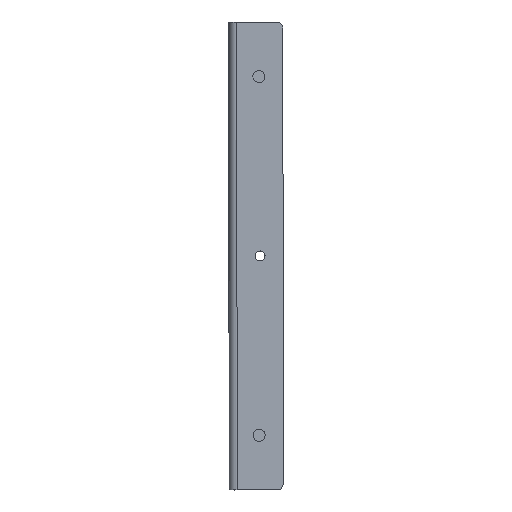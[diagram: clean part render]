
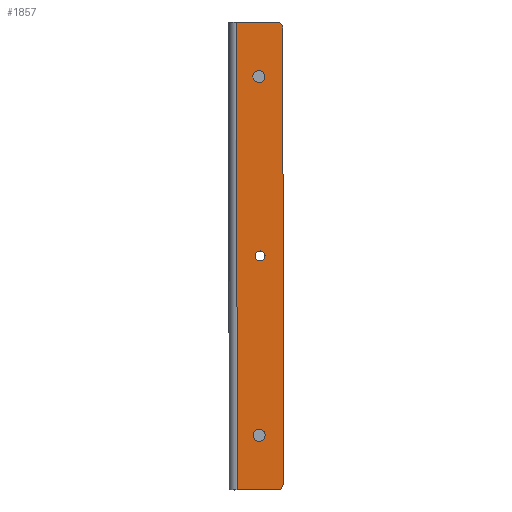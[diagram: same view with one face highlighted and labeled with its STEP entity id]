
A CAD part, top view. The second image highlights one B-rep face of the part: STEP entity #1857.
In plain terms, the highlighted planar face has unit normal (0, 0, 1).
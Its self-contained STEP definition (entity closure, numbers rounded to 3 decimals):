
#1309=VECTOR('Line Direction',#1308,1.) ;
#1403=VECTOR('Line Direction',#1402,1.) ;
#1687=VECTOR('Line Direction',#1686,1.) ;
#1713=VECTOR('Line Direction',#1712,1.) ;
#1308=DIRECTION('Vector Direction',(0.001,-1.,0.)) ;
#1361=DIRECTION('Axis2P3D Direction',(0.,0.,1.)) ;
#1380=DIRECTION('Axis2P3D Direction',(0.,0.,1.)) ;
#1402=DIRECTION('Vector Direction',(-1.,-0.001,0.)) ;
#1433=DIRECTION('Axis2P3D Direction',(0.,0.,-1.)) ;
#1686=DIRECTION('Vector Direction',(-1.,-0.001,0.)) ;
#1712=DIRECTION('Vector Direction',(-0.001,1.,0.)) ;
#1734=DIRECTION('Axis2P3D Direction',(0.,0.,-1.)) ;
#1805=DIRECTION('Axis2P3D Direction',(0.,0.,-1.)) ;
#1806=DIRECTION('Axis2P3D XDirection',(1.,0.001,0.)) ;
#1822=DIRECTION('Axis2P3D Direction',(0.,0.,-1.)) ;
#1831=DIRECTION('Axis2P3D Direction',(0.,0.,-1.)) ;
#1840=DIRECTION('Axis2P3D Direction',(0.,0.,-1.)) ;
#1849=DIRECTION('Axis2P3D Direction',(0.,0.,-1.)) ;
#1244=CARTESIAN_POINT('Vertex',(1055.722,-831.297,364.316)) ;
#1279=CARTESIAN_POINT('Vertex',(1055.541,-597.897,364.315)) ;
#1307=CARTESIAN_POINT('Line Origine',(1055.632,-714.597,364.316)) ;
#1357=CARTESIAN_POINT('Vertex',(1064.632,-714.59,364.315)) ;
#1360=CARTESIAN_POINT('Axis2P3D Location',(1067.132,-714.588,364.315)) ;
#1364=CARTESIAN_POINT('Vertex',(1069.632,-714.586,364.315)) ;
#1379=CARTESIAN_POINT('Axis2P3D Location',(1067.132,-714.588,364.315)) ;
#1401=CARTESIAN_POINT('Line Origine',(1067.222,-831.288,364.316)) ;
#1405=CARTESIAN_POINT('Vertex',(1075.722,-831.282,364.315)) ;
#1432=CARTESIAN_POINT('Axis2P3D Location',(1075.72,-828.282,364.315)) ;
#1436=CARTESIAN_POINT('Vertex',(1078.72,-828.279,364.315)) ;
#1677=CARTESIAN_POINT('Vertex',(1075.541,-597.882,364.315)) ;
#1685=CARTESIAN_POINT('Line Origine',(1067.041,-597.888,364.315)) ;
#1708=CARTESIAN_POINT('Vertex',(1078.543,-600.879,364.315)) ;
#1711=CARTESIAN_POINT('Line Origine',(1078.632,-714.579,364.315)) ;
#1733=CARTESIAN_POINT('Axis2P3D Location',(1075.543,-600.882,364.315)) ;
#1804=CARTESIAN_POINT('Axis2P3D Location',(1055.632,-714.597,364.316)) ;
#1821=CARTESIAN_POINT('Axis2P3D Location',(1066.701,-804.089,364.316)) ;
#1825=CARTESIAN_POINT('Vertex',(1066.931,-807.08,364.316)) ;
#1827=CARTESIAN_POINT('Vertex',(1066.471,-801.098,364.316)) ;
#1830=CARTESIAN_POINT('Axis2P3D Location',(1066.701,-804.089,364.316)) ;
#1839=CARTESIAN_POINT('Axis2P3D Location',(1066.562,-625.089,364.315)) ;
#1843=CARTESIAN_POINT('Vertex',(1066.792,-628.08,364.315)) ;
#1845=CARTESIAN_POINT('Vertex',(1066.332,-622.098,364.315)) ;
#1848=CARTESIAN_POINT('Axis2P3D Location',(1066.562,-625.089,364.315)) ;
#1362=AXIS2_PLACEMENT_3D('Circle Axis2P3D',#1360,#1361,$) ;
#1381=AXIS2_PLACEMENT_3D('Circle Axis2P3D',#1379,#1380,$) ;
#1434=AXIS2_PLACEMENT_3D('Circle Axis2P3D',#1432,#1433,$) ;
#1735=AXIS2_PLACEMENT_3D('Circle Axis2P3D',#1733,#1734,$) ;
#1807=AXIS2_PLACEMENT_3D('Plane Axis2P3D',#1804,#1805,#1806) ;
#1823=AXIS2_PLACEMENT_3D('Circle Axis2P3D',#1821,#1822,$) ;
#1832=AXIS2_PLACEMENT_3D('Circle Axis2P3D',#1830,#1831,$) ;
#1841=AXIS2_PLACEMENT_3D('Circle Axis2P3D',#1839,#1840,$) ;
#1850=AXIS2_PLACEMENT_3D('Circle Axis2P3D',#1848,#1849,$) ;
#1820=FACE_BOUND('',#1817,.T.) ;
#1838=FACE_BOUND('',#1835,.T.) ;
#1856=FACE_BOUND('',#1853,.T.) ;
#1311=EDGE_CURVE('',#1280,#1245,#1310,.T.) ;
#1366=EDGE_CURVE('',#1365,#1358,#1363,.F.) ;
#1383=EDGE_CURVE('',#1358,#1365,#1382,.F.) ;
#1407=EDGE_CURVE('',#1406,#1245,#1404,.T.) ;
#1438=EDGE_CURVE('',#1437,#1406,#1435,.T.) ;
#1689=EDGE_CURVE('',#1678,#1280,#1688,.T.) ;
#1715=EDGE_CURVE('',#1437,#1709,#1714,.T.) ;
#1737=EDGE_CURVE('',#1678,#1709,#1736,.T.) ;
#1829=EDGE_CURVE('',#1826,#1828,#1824,.F.) ;
#1834=EDGE_CURVE('',#1828,#1826,#1833,.F.) ;
#1847=EDGE_CURVE('',#1844,#1846,#1842,.F.) ;
#1852=EDGE_CURVE('',#1846,#1844,#1851,.F.) ;
#1808=PLANE('Plane',#1807) ;
#1810=ORIENTED_EDGE('',*,*,#1737,.F.) ;
#1811=ORIENTED_EDGE('',*,*,#1689,.T.) ;
#1812=ORIENTED_EDGE('',*,*,#1311,.T.) ;
#1813=ORIENTED_EDGE('',*,*,#1407,.F.) ;
#1814=ORIENTED_EDGE('',*,*,#1438,.F.) ;
#1815=ORIENTED_EDGE('',*,*,#1715,.T.) ;
#1818=ORIENTED_EDGE('',*,*,#1366,.T.) ;
#1819=ORIENTED_EDGE('',*,*,#1383,.T.) ;
#1836=ORIENTED_EDGE('',*,*,#1829,.F.) ;
#1837=ORIENTED_EDGE('',*,*,#1834,.F.) ;
#1854=ORIENTED_EDGE('',*,*,#1847,.F.) ;
#1855=ORIENTED_EDGE('',*,*,#1852,.F.) ;
#1310=LINE('Line',#1307,#1309) ;
#1404=LINE('Line',#1401,#1403) ;
#1688=LINE('Line',#1685,#1687) ;
#1714=LINE('Line',#1711,#1713) ;
#1857=ADVANCED_FACE('\X2\96F64EF651E04F554F53\X0\',(#1816,#1820,#1838,#1856),#1808,.F.) ;
#1363=CIRCLE('generated circle',#1362,2.5) ;
#1382=CIRCLE('generated circle',#1381,2.5) ;
#1435=CIRCLE('generated circle',#1434,3.) ;
#1736=CIRCLE('generated circle',#1735,3.) ;
#1824=CIRCLE('generated circle',#1823,3.) ;
#1833=CIRCLE('generated circle',#1832,3.) ;
#1842=CIRCLE('generated circle',#1841,3.) ;
#1851=CIRCLE('generated circle',#1850,3.) ;
#1245=VERTEX_POINT('',#1244) ;
#1280=VERTEX_POINT('',#1279) ;
#1358=VERTEX_POINT('',#1357) ;
#1365=VERTEX_POINT('',#1364) ;
#1406=VERTEX_POINT('',#1405) ;
#1437=VERTEX_POINT('',#1436) ;
#1678=VERTEX_POINT('',#1677) ;
#1709=VERTEX_POINT('',#1708) ;
#1826=VERTEX_POINT('',#1825) ;
#1828=VERTEX_POINT('',#1827) ;
#1844=VERTEX_POINT('',#1843) ;
#1846=VERTEX_POINT('',#1845) ;
#1809=EDGE_LOOP('',(#1810,#1811,#1812,#1813,#1814,#1815)) ;
#1817=EDGE_LOOP('',(#1818,#1819)) ;
#1835=EDGE_LOOP('',(#1836,#1837)) ;
#1853=EDGE_LOOP('',(#1854,#1855)) ;
#1816=FACE_OUTER_BOUND('',#1809,.T.) ;
